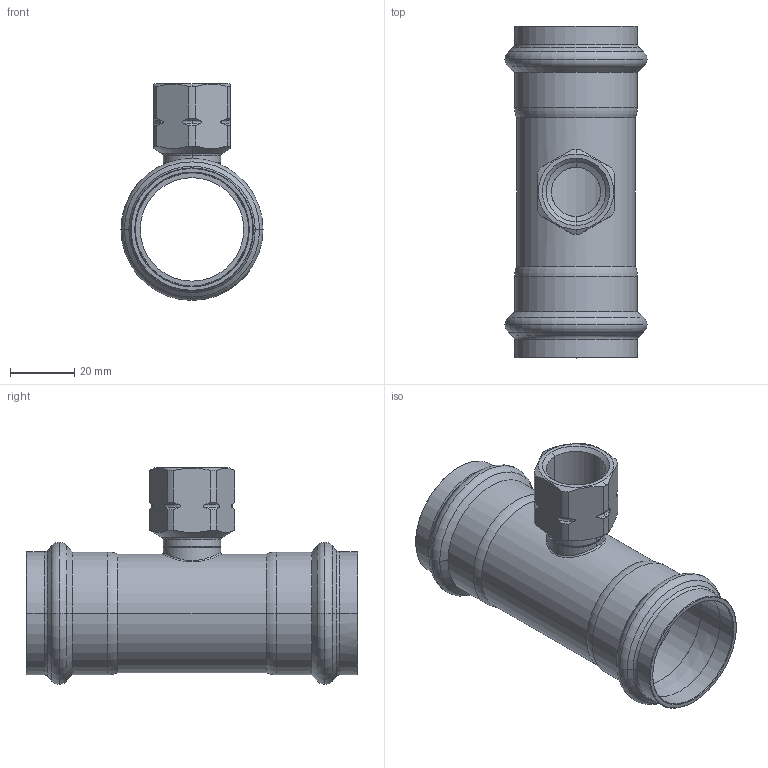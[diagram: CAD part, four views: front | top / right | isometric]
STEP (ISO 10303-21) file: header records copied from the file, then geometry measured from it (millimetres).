
FILE_DESCRIPTION(('CoCreate Modeling STEP Export'),'2;1');
FILE_NAME('8130GVW351235.stp','2013-02-12T12:53:53',(''),(''),'CoCreate Modeling STEP processor for AP214 (Solid Model)','CoCreate Modeling 17.00A 17-Jun-2010 (C) Parametric Technology GmbH','');
FILE_SCHEMA(('AUTOMOTIVE_DESIGN { 1 0 10303 214 1 1 1 1 }'));
Length unit declared in the file: millimetre
Products named in the file (2): 8130GVW351235
Assembly tree (1 placements, depth 2):
  8130GVW351235
    8130GVW351235
Bounding box: 44.3 x 103.51 x 67.65 mm (x, y, z)
Volume: 26923.9 mm3; surface area: 28898.5 mm2
Topology: 1 solids, 1 shells, 148 faces, 355 edges, 215 vertices
Faces by surface type: cylinder 46, cone 46, torus 38, plane 14, bspline 4
Entity records: 9126 total; most frequent: CARTESIAN_POINT 6263, ORIENTED_EDGE 710, DIRECTION 440, EDGE_CURVE 355, VERTEX_POINT 215, AXIS2_PLACEMENT_3D 180, EDGE_LOOP 158, FACE_OUTER_BOUND 148
